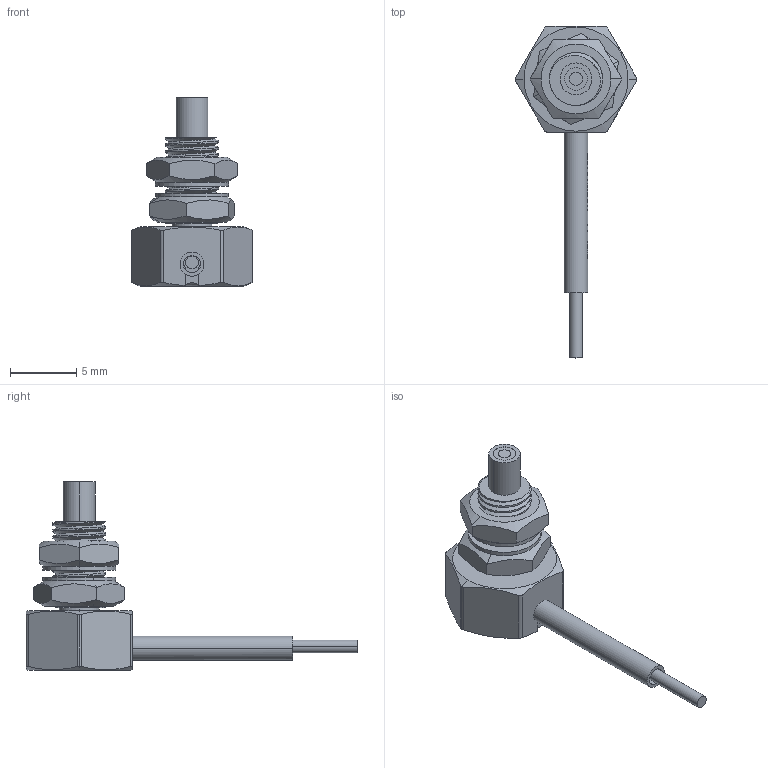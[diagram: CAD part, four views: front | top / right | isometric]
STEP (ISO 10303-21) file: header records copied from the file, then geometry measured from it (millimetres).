
FILE_DESCRIPTION (( 'STEP AP203' ), '1' );
FILE_NAME ('PT-42TZ.STEP', '2016-06-30T01:39:38', ( '' ), ( '' ), 'SwSTEP 2.0', 'SolidWorks 2013', '' );
FILE_SCHEMA (( 'CONFIG_CONTROL_DESIGN' ));
Length unit declared in the file: millimetre
Products named in the file (1): PT-42TZ
Bounding box: 9.14 x 25 x 14.2 mm (x, y, z)
Volume: 441.5 mm3; surface area: 811.6 mm2
Topology: 3 solids, 3 shells, 367 faces, 977 edges, 626 vertices
Faces by surface type: plane 205, cylinder 87, cone 53, bspline 19, torus 3
Entity records: 13860 total; most frequent: CARTESIAN_POINT 4964, ORIENTED_EDGE 1950, DIRECTION 1726, EDGE_CURVE 975, VERTEX_POINT 626, AXIS2_PLACEMENT_3D 584, VECTOR 558, LINE 558
